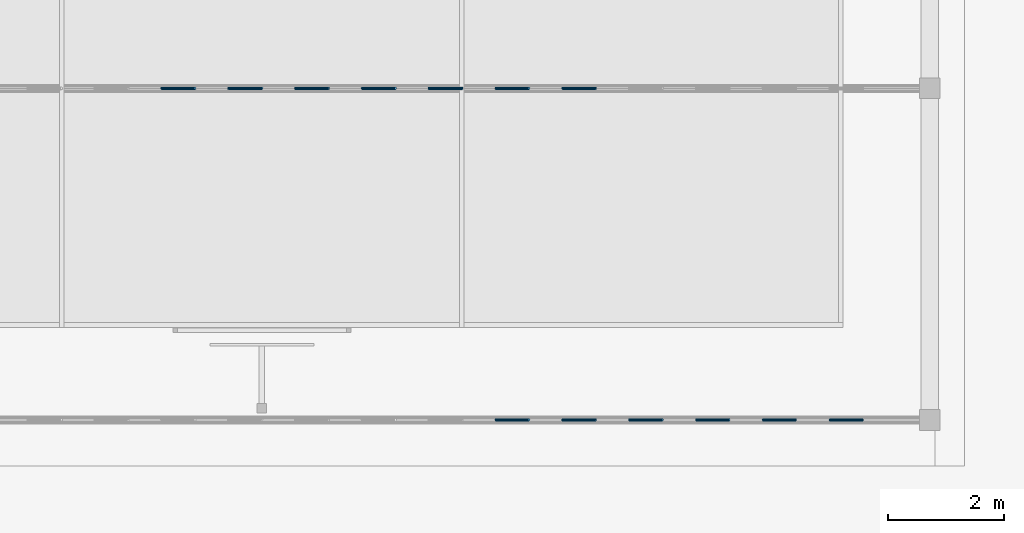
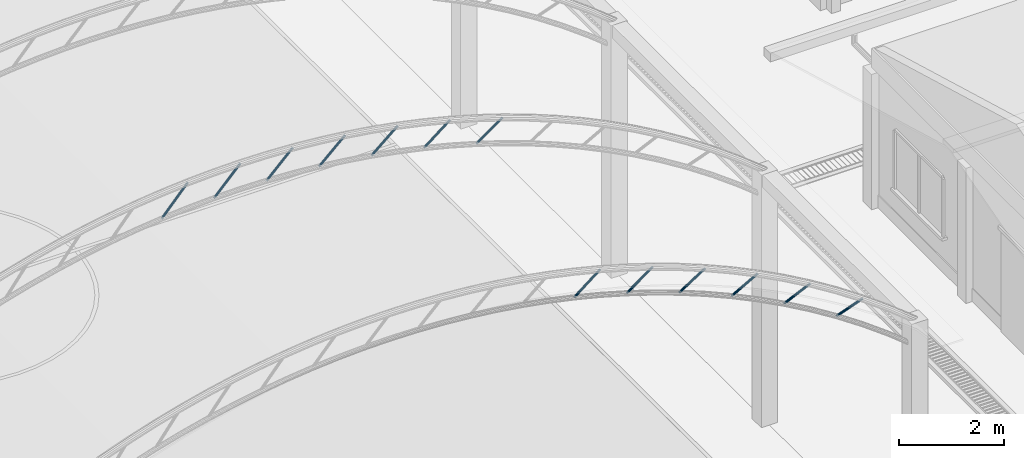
# One storey, part 25 of 151: 13 beams.
"""IFC2X3 building model written with IfcOpenShell, lengths in metres."""

from ifc_helpers import new_model, si_unit, origin, origin_with_axes, place, context, subcontext, project, spatial, faceted_brep, element, save


model = new_model("IFC2X3")

# Units and contexts
model_context = context("Model", 3, precision=1e-05, world=origin_with_axes())
body_context = subcontext(model_context, "Body", "Model", "MODEL_VIEW")
ifc_project = project(units=[si_unit("LENGTHUNIT", "METRE"), si_unit("AREAUNIT", "SQUARE_METRE"), si_unit("VOLUMEUNIT", "CUBIC_METRE"), si_unit("PLANEANGLEUNIT", "RADIAN")], contexts=[model_context])

# Site, building, storey
site_placement = place(None, origin_with_axes())
site = spatial("IfcSite", under=ifc_project, at=site_placement, Name="Predio Los Mangos - Morales, San Martín", CompositionType="ELEMENT")
building_placement = place(site_placement, origin())
building = spatial("IfcBuilding", under=site, at=building_placement, Name="Hogar de Refugio Temporal", CompositionType="ELEMENT")
storey_placement = place(building_placement, origin())
storey = spatial("IfcBuildingStorey", under=building, at=storey_placement, Name="NIVEL 1 (NPT +0.00)", CompositionType="ELEMENT", Elevation=0.0)

# Beams
beam_1_placement = place(storey_placement, origin())
element("IfcBeam", 1, at=beam_1_placement, inside=storey, Name="diag", ObjectType="Viga", context=body_context, shape_type="Brep", body=[
    faceted_brep([(19.0847, 92.6217, 9.0995), (19.6622, 92.6217, 9.5562), (19.67, 92.625, 9.5463), (19.0925, 92.625, 9.0897), (19.0791, 92.6125, 9.1067), (19.6566, 92.6125, 9.5633), (19.077, 92.6, 9.1093), (19.6545, 92.6, 9.566), (19.0791, 92.5875, 9.1067), (19.6566, 92.5875, 9.5633), (19.0847, 92.5783, 9.0995), (19.6622, 92.5783, 9.5562), (19.0925, 92.575, 9.0897), (19.67, 92.575, 9.5463), (19.1003, 92.5783, 9.0799), (19.6778, 92.5783, 9.5365), (19.1059, 92.5875, 9.0727), (19.6834, 92.5875, 9.5294), (19.108, 92.6, 9.0701), (19.6855, 92.6, 9.5267), (19.1059, 92.6125, 9.0727), (19.6834, 92.6125, 9.5294), (19.1003, 92.6217, 9.0799), (19.6778, 92.6217, 9.5365), (19.0912, 92.6037, 9.0914), (19.0925, 92.6043, 9.0897), (19.67, 92.6043, 9.5463), (19.6687, 92.6037, 9.548), (19.0902, 92.6021, 9.0926), (19.6677, 92.6021, 9.5493), (19.0898, 92.6, 9.0931), (19.6673, 92.6, 9.5497), (19.0902, 92.5979, 9.0926), (19.6677, 92.5979, 9.5493), (19.0912, 92.5963, 9.0914), (19.6687, 92.5963, 9.548), (19.0925, 92.5957, 9.0897), (19.67, 92.5957, 9.5463), (19.0938, 92.5963, 9.088), (19.6713, 92.5963, 9.5447), (19.0948, 92.5979, 9.0868), (19.6723, 92.5979, 9.5434), (19.0952, 92.6, 9.0863), (19.6727, 92.6, 9.543), (19.0948, 92.6021, 9.0868), (19.6723, 92.6021, 9.5434), (19.0938, 92.6037, 9.088), (19.6713, 92.6037, 9.5447)], [[[0, 1, 2, 3]], [[4, 5, 1, 0]], [[6, 7, 5, 4]], [[8, 9, 7, 6]], [[10, 11, 9, 8]], [[12, 13, 11, 10]], [[14, 15, 13, 12]], [[16, 17, 15, 14]], [[18, 19, 17, 16]], [[20, 21, 19, 18]], [[22, 23, 21, 20]], [[3, 2, 23, 22]], [[24, 25, 26, 27]], [[28, 24, 27, 29]], [[30, 28, 29, 31]], [[32, 30, 31, 33]], [[34, 32, 33, 35]], [[36, 34, 35, 37]], [[38, 36, 37, 39]], [[40, 38, 39, 41]], [[42, 40, 41, 43]], [[44, 42, 43, 45]], [[46, 44, 45, 47]], [[25, 46, 47, 26]], [[11, 13, 37, 35]], [[21, 23, 47, 45]], [[4, 0, 24, 28]], [[14, 12, 36, 38]], [[3, 22, 46, 25]], [[7, 9, 33, 31]], [[17, 19, 43, 41]], [[23, 2, 26, 47]], [[10, 8, 32, 34]], [[20, 18, 42, 44]], [[1, 5, 29, 27]], [[13, 15, 39, 37]], [[6, 4, 28, 30]], [[16, 14, 38, 40]], [[0, 3, 25, 24]], [[9, 11, 35, 33]], [[19, 21, 45, 43]], [[12, 10, 34, 36]], [[22, 20, 44, 46]], [[5, 7, 31, 29]], [[15, 17, 41, 39]], [[2, 1, 27, 26]], [[8, 6, 30, 32]], [[18, 16, 40, 42]]]),
])
beam_2_placement = place(storey_placement, origin())
element("IfcBeam", 2, at=beam_2_placement, inside=storey, Name="diag", ObjectType="Viga", context=body_context, shape_type="Brep", body=[
    faceted_brep([(20.2402, 92.6217, 8.7926), (20.8177, 92.6217, 9.2075), (20.825, 92.625, 9.1974), (20.2475, 92.625, 8.7824), (20.2349, 92.6125, 8.8), (20.8124, 92.6125, 9.215), (20.2329, 92.6, 8.8027), (20.8104, 92.6, 9.2177), (20.2349, 92.5875, 8.8), (20.8124, 92.5875, 9.215), (20.2402, 92.5783, 8.7926), (20.8177, 92.5783, 9.2075), (20.2475, 92.575, 8.7824), (20.825, 92.575, 9.1974), (20.2548, 92.5783, 8.7723), (20.8323, 92.5783, 9.1872), (20.2601, 92.5875, 8.7649), (20.8376, 92.5875, 9.1798), (20.2621, 92.6, 8.7621), (20.8396, 92.6, 9.1771), (20.2601, 92.6125, 8.7649), (20.8376, 92.6125, 9.1798), (20.2548, 92.6217, 8.7723), (20.8323, 92.6217, 9.1872), (20.2462, 92.6037, 8.7842), (20.2475, 92.6043, 8.7824), (20.825, 92.6043, 9.1974), (20.8237, 92.6037, 9.1991), (20.2453, 92.6021, 8.7855), (20.8228, 92.6021, 9.2004), (20.245, 92.6, 8.7859), (20.8225, 92.6, 9.2009), (20.2453, 92.5979, 8.7855), (20.8228, 92.5979, 9.2004), (20.2462, 92.5963, 8.7842), (20.8237, 92.5963, 9.1991), (20.2475, 92.5957, 8.7824), (20.825, 92.5957, 9.1974), (20.2488, 92.5963, 8.7807), (20.8263, 92.5963, 9.1957), (20.2497, 92.5979, 8.7794), (20.8272, 92.5979, 9.1944), (20.25, 92.6, 8.779), (20.8275, 92.6, 9.1939), (20.2497, 92.6021, 8.7794), (20.8272, 92.6021, 9.1944), (20.2488, 92.6037, 8.7807), (20.8263, 92.6037, 9.1957)], [[[0, 1, 2, 3]], [[4, 5, 1, 0]], [[6, 7, 5, 4]], [[8, 9, 7, 6]], [[10, 11, 9, 8]], [[12, 13, 11, 10]], [[14, 15, 13, 12]], [[16, 17, 15, 14]], [[18, 19, 17, 16]], [[20, 21, 19, 18]], [[22, 23, 21, 20]], [[3, 2, 23, 22]], [[24, 25, 26, 27]], [[28, 24, 27, 29]], [[30, 28, 29, 31]], [[32, 30, 31, 33]], [[34, 32, 33, 35]], [[36, 34, 35, 37]], [[38, 36, 37, 39]], [[40, 38, 39, 41]], [[42, 40, 41, 43]], [[44, 42, 43, 45]], [[46, 44, 45, 47]], [[25, 46, 47, 26]], [[12, 10, 34, 36]], [[22, 20, 44, 46]], [[5, 7, 31, 29]], [[15, 17, 41, 39]], [[2, 1, 27, 26]], [[8, 6, 30, 32]], [[18, 16, 40, 42]], [[11, 13, 37, 35]], [[21, 23, 47, 45]], [[4, 0, 24, 28]], [[14, 12, 36, 38]], [[3, 22, 46, 25]], [[7, 9, 33, 31]], [[17, 19, 43, 41]], [[23, 2, 26, 47]], [[10, 8, 32, 34]], [[20, 18, 42, 44]], [[1, 5, 29, 27]], [[13, 15, 39, 37]], [[6, 4, 28, 30]], [[16, 14, 38, 40]], [[0, 3, 25, 24]], [[9, 11, 35, 33]], [[19, 21, 45, 43]]]),
])
beam_3_placement = place(storey_placement, origin())
element("IfcBeam", 3, at=beam_3_placement, inside=storey, Name="diag", ObjectType="Viga", context=body_context, shape_type="Brep", body=[
    faceted_brep([(21.3958, 92.6217, 8.401), (21.9733, 92.6217, 8.7715), (21.98, 92.625, 8.7609), (21.4025, 92.625, 8.3905), (21.3908, 92.6125, 8.4087), (21.9683, 92.6125, 8.7792), (21.389, 92.6, 8.4115), (21.9665, 92.6, 8.782), (21.3908, 92.5875, 8.4087), (21.9683, 92.5875, 8.7792), (21.3958, 92.5783, 8.401), (21.9733, 92.5783, 8.7715), (21.4025, 92.575, 8.3905), (21.98, 92.575, 8.7609), (21.4092, 92.5783, 8.38), (21.9867, 92.5783, 8.7504), (21.4142, 92.5875, 8.3723), (21.9917, 92.5875, 8.7427), (21.416, 92.6, 8.3695), (21.9935, 92.6, 8.7399), (21.4142, 92.6125, 8.3723), (21.9917, 92.6125, 8.7427), (21.4092, 92.6217, 8.38), (21.9867, 92.6217, 8.7504), (21.4013, 92.6037, 8.3923), (21.4025, 92.6043, 8.3905), (21.98, 92.6043, 8.7609), (21.9788, 92.6037, 8.7627), (21.4005, 92.6021, 8.3936), (21.978, 92.6021, 8.7641), (21.4002, 92.6, 8.3941), (21.9777, 92.6, 8.7645), (21.4005, 92.5979, 8.3936), (21.978, 92.5979, 8.7641), (21.4013, 92.5963, 8.3923), (21.9788, 92.5963, 8.7627), (21.4025, 92.5957, 8.3905), (21.98, 92.5957, 8.7609), (21.4037, 92.5963, 8.3887), (21.9812, 92.5963, 8.7591), (21.4045, 92.5979, 8.3874), (21.982, 92.5979, 8.7578), (21.4048, 92.6, 8.3869), (21.9823, 92.6, 8.7573), (21.4045, 92.6021, 8.3874), (21.982, 92.6021, 8.7578), (21.4037, 92.6037, 8.3887), (21.9812, 92.6037, 8.7591)], [[[0, 1, 2, 3]], [[4, 5, 1, 0]], [[6, 7, 5, 4]], [[8, 9, 7, 6]], [[10, 11, 9, 8]], [[12, 13, 11, 10]], [[14, 15, 13, 12]], [[16, 17, 15, 14]], [[18, 19, 17, 16]], [[20, 21, 19, 18]], [[22, 23, 21, 20]], [[3, 2, 23, 22]], [[24, 25, 26, 27]], [[28, 24, 27, 29]], [[30, 28, 29, 31]], [[32, 30, 31, 33]], [[34, 32, 33, 35]], [[36, 34, 35, 37]], [[38, 36, 37, 39]], [[40, 38, 39, 41]], [[42, 40, 41, 43]], [[44, 42, 43, 45]], [[46, 44, 45, 47]], [[25, 46, 47, 26]], [[6, 4, 28, 30]], [[16, 14, 38, 40]], [[0, 3, 25, 24]], [[9, 11, 35, 33]], [[19, 21, 45, 43]], [[12, 10, 34, 36]], [[22, 20, 44, 46]], [[5, 7, 31, 29]], [[15, 17, 41, 39]], [[2, 1, 27, 26]], [[8, 6, 30, 32]], [[18, 16, 40, 42]], [[11, 13, 37, 35]], [[21, 23, 47, 45]], [[4, 0, 24, 28]], [[14, 12, 36, 38]], [[3, 22, 46, 25]], [[7, 9, 33, 31]], [[17, 19, 43, 41]], [[23, 2, 26, 47]], [[10, 8, 32, 34]], [[20, 18, 42, 44]], [[1, 5, 29, 27]], [[13, 15, 39, 37]]]),
])
beam_4_placement = place(storey_placement, origin())
element("IfcBeam", 4, at=beam_4_placement, inside=storey, Name="diag", ObjectType="Viga", context=body_context, shape_type="Brep", body=[
    faceted_brep([(22.5514, 92.6217, 7.9187), (23.1289, 92.6217, 8.2407), (23.135, 92.625, 8.2298), (22.5575, 92.625, 7.9077), (22.547, 92.6125, 7.9267), (23.1245, 92.6125, 8.2487), (22.5453, 92.6, 7.9296), (23.1228, 92.6, 8.2517), (22.547, 92.5875, 7.9267), (23.1245, 92.5875, 8.2487), (22.5514, 92.5783, 7.9187), (23.1289, 92.5783, 8.2407), (22.5575, 92.575, 7.9077), (23.135, 92.575, 8.2298), (22.5636, 92.5783, 7.8968), (23.1411, 92.5783, 8.2189), (22.568, 92.5875, 7.8888), (23.1455, 92.5875, 8.2109), (22.5697, 92.6, 7.8859), (23.1472, 92.6, 8.208), (22.568, 92.6125, 7.8888), (23.1455, 92.6125, 8.2109), (22.5636, 92.6217, 7.8968), (23.1411, 92.6217, 8.2189), (22.5565, 92.6037, 7.9096), (22.5575, 92.6043, 7.9077), (23.135, 92.6043, 8.2298), (23.134, 92.6037, 8.2317), (22.5557, 92.6021, 7.911), (23.1332, 92.6021, 8.2331), (22.5554, 92.6, 7.9115), (23.1329, 92.6, 8.2336), (22.5557, 92.5979, 7.911), (23.1332, 92.5979, 8.2331), (22.5565, 92.5963, 7.9096), (23.134, 92.5963, 8.2317), (22.5575, 92.5957, 7.9077), (23.135, 92.5957, 8.2298), (22.5585, 92.5963, 7.9059), (23.136, 92.5963, 8.228), (22.5593, 92.5979, 7.9045), (23.1368, 92.5979, 8.2266), (22.5596, 92.6, 7.904), (23.1371, 92.6, 8.2261), (22.5593, 92.6021, 7.9045), (23.1368, 92.6021, 8.2266), (22.5585, 92.6037, 7.9059), (23.136, 92.6037, 8.228)], [[[0, 1, 2, 3]], [[4, 5, 1, 0]], [[6, 7, 5, 4]], [[8, 9, 7, 6]], [[10, 11, 9, 8]], [[12, 13, 11, 10]], [[14, 15, 13, 12]], [[16, 17, 15, 14]], [[18, 19, 17, 16]], [[20, 21, 19, 18]], [[22, 23, 21, 20]], [[3, 2, 23, 22]], [[24, 25, 26, 27]], [[28, 24, 27, 29]], [[30, 28, 29, 31]], [[32, 30, 31, 33]], [[34, 32, 33, 35]], [[36, 34, 35, 37]], [[38, 36, 37, 39]], [[40, 38, 39, 41]], [[42, 40, 41, 43]], [[44, 42, 43, 45]], [[46, 44, 45, 47]], [[25, 46, 47, 26]], [[18, 16, 40, 42]], [[11, 13, 37, 35]], [[21, 23, 47, 45]], [[4, 0, 24, 28]], [[14, 12, 36, 38]], [[3, 22, 46, 25]], [[7, 9, 33, 31]], [[17, 19, 43, 41]], [[23, 2, 26, 47]], [[10, 8, 32, 34]], [[20, 18, 42, 44]], [[1, 5, 29, 27]], [[13, 15, 39, 37]], [[6, 4, 28, 30]], [[16, 14, 38, 40]], [[0, 3, 25, 24]], [[9, 11, 35, 33]], [[19, 21, 45, 43]], [[12, 10, 34, 36]], [[22, 20, 44, 46]], [[5, 7, 31, 29]], [[15, 17, 41, 39]], [[2, 1, 27, 26]], [[8, 6, 30, 32]]]),
])
beam_5_placement = place(storey_placement, origin())
element("IfcBeam", 5, at=beam_5_placement, inside=storey, Name="diag", ObjectType="Viga", context=body_context, shape_type="Brep", body=[
    faceted_brep([(23.7072, 92.6217, 7.3372), (24.2847, 92.6217, 7.6056), (24.29, 92.625, 7.5943), (23.7125, 92.625, 7.3259), (23.7034, 92.6125, 7.3455), (24.2809, 92.6125, 7.6139), (23.702, 92.6, 7.3485), (24.2795, 92.6, 7.617), (23.7034, 92.5875, 7.3455), (24.2809, 92.5875, 7.6139), (23.7072, 92.5783, 7.3372), (24.2847, 92.5783, 7.6056), (23.7125, 92.575, 7.3259), (24.29, 92.575, 7.5943), (23.7178, 92.5783, 7.3145), (24.2953, 92.5783, 7.583), (23.7216, 92.5875, 7.3062), (24.2991, 92.5875, 7.5747), (23.723, 92.6, 7.3032), (24.3005, 92.6, 7.5716), (23.7216, 92.6125, 7.3062), (24.2991, 92.6125, 7.5747), (23.7178, 92.6217, 7.3145), (24.2953, 92.6217, 7.583), (23.7116, 92.6037, 7.3278), (23.7125, 92.6043, 7.3259), (24.29, 92.6043, 7.5943), (24.2891, 92.6037, 7.5963), (23.7109, 92.6021, 7.3292), (24.2884, 92.6021, 7.5977), (23.7107, 92.6, 7.3298), (24.2882, 92.6, 7.5982), (23.7109, 92.5979, 7.3292), (24.2884, 92.5979, 7.5977), (23.7116, 92.5963, 7.3278), (24.2891, 92.5963, 7.5963), (23.7125, 92.5957, 7.3259), (24.29, 92.5957, 7.5943), (23.7134, 92.5963, 7.3239), (24.2909, 92.5963, 7.5924), (23.7141, 92.5979, 7.3225), (24.2916, 92.5979, 7.5909), (23.7143, 92.6, 7.322), (24.2918, 92.6, 7.5904), (23.7141, 92.6021, 7.3225), (24.2916, 92.6021, 7.5909), (23.7134, 92.6037, 7.3239), (24.2909, 92.6037, 7.5924)], [[[0, 1, 2, 3]], [[4, 5, 1, 0]], [[6, 7, 5, 4]], [[8, 9, 7, 6]], [[10, 11, 9, 8]], [[12, 13, 11, 10]], [[14, 15, 13, 12]], [[16, 17, 15, 14]], [[18, 19, 17, 16]], [[20, 21, 19, 18]], [[22, 23, 21, 20]], [[3, 2, 23, 22]], [[24, 25, 26, 27]], [[28, 24, 27, 29]], [[30, 28, 29, 31]], [[32, 30, 31, 33]], [[34, 32, 33, 35]], [[36, 34, 35, 37]], [[38, 36, 37, 39]], [[40, 38, 39, 41]], [[42, 40, 41, 43]], [[44, 42, 43, 45]], [[46, 44, 45, 47]], [[25, 46, 47, 26]], [[18, 16, 40, 42]], [[11, 13, 37, 35]], [[21, 23, 47, 45]], [[4, 0, 24, 28]], [[14, 12, 36, 38]], [[3, 22, 46, 25]], [[7, 9, 33, 31]], [[17, 19, 43, 41]], [[23, 2, 26, 47]], [[10, 8, 32, 34]], [[20, 18, 42, 44]], [[1, 5, 29, 27]], [[13, 15, 39, 37]], [[6, 4, 28, 30]], [[16, 14, 38, 40]], [[0, 3, 25, 24]], [[9, 11, 35, 33]], [[19, 21, 45, 43]], [[12, 10, 34, 36]], [[22, 20, 44, 46]], [[5, 7, 31, 29]], [[15, 17, 41, 39]], [[2, 1, 27, 26]], [[8, 6, 30, 32]]]),
])
beam_6_placement = place(storey_placement, origin())
element("IfcBeam", 6, at=beam_6_placement, inside=storey, Name="diag", ObjectType="Viga", context=body_context, shape_type="Brep", body=[
    faceted_brep([(24.8633, 92.6217, 6.6451), (25.4408, 92.6217, 6.8526), (25.445, 92.625, 6.8408), (24.8675, 92.625, 6.6333), (24.8602, 92.6125, 6.6537), (25.4377, 92.6125, 6.8612), (24.859, 92.6, 6.6569), (25.4365, 92.6, 6.8643), (24.8602, 92.5875, 6.6537), (25.4377, 92.5875, 6.8612), (24.8633, 92.5783, 6.6451), (25.4408, 92.5783, 6.8526), (24.8675, 92.575, 6.6333), (25.445, 92.575, 6.8408), (24.8717, 92.5783, 6.6216), (25.4492, 92.5783, 6.829), (24.8748, 92.5875, 6.613), (25.4523, 92.5875, 6.8204), (24.876, 92.6, 6.6098), (25.4535, 92.6, 6.8173), (24.8748, 92.6125, 6.613), (25.4523, 92.6125, 6.8204), (24.8717, 92.6217, 6.6216), (25.4492, 92.6217, 6.829), (24.8668, 92.6037, 6.6354), (24.8675, 92.6043, 6.6333), (25.445, 92.6043, 6.8408), (25.4443, 92.6037, 6.8428), (24.8662, 92.6021, 6.6368), (25.4437, 92.6021, 6.8443), (24.866, 92.6, 6.6374), (25.4435, 92.6, 6.8449), (24.8662, 92.5979, 6.6368), (25.4437, 92.5979, 6.8443), (24.8668, 92.5963, 6.6354), (25.4443, 92.5963, 6.8428), (24.8675, 92.5957, 6.6333), (25.445, 92.5957, 6.8408), (24.8682, 92.5963, 6.6313), (25.4457, 92.5963, 6.8388), (24.8688, 92.5979, 6.6298), (25.4463, 92.5979, 6.8373), (24.869, 92.6, 6.6293), (25.4465, 92.6, 6.8368), (24.8688, 92.6021, 6.6298), (25.4463, 92.6021, 6.8373), (24.8682, 92.6037, 6.6313), (25.4457, 92.6037, 6.8388)], [[[0, 1, 2, 3]], [[4, 5, 1, 0]], [[6, 7, 5, 4]], [[8, 9, 7, 6]], [[10, 11, 9, 8]], [[12, 13, 11, 10]], [[14, 15, 13, 12]], [[16, 17, 15, 14]], [[18, 19, 17, 16]], [[20, 21, 19, 18]], [[22, 23, 21, 20]], [[3, 2, 23, 22]], [[24, 25, 26, 27]], [[28, 24, 27, 29]], [[30, 28, 29, 31]], [[32, 30, 31, 33]], [[34, 32, 33, 35]], [[36, 34, 35, 37]], [[38, 36, 37, 39]], [[40, 38, 39, 41]], [[42, 40, 41, 43]], [[44, 42, 43, 45]], [[46, 44, 45, 47]], [[25, 46, 47, 26]], [[18, 16, 40, 42]], [[11, 13, 37, 35]], [[21, 23, 47, 45]], [[4, 0, 24, 28]], [[14, 12, 36, 38]], [[3, 22, 46, 25]], [[7, 9, 33, 31]], [[17, 19, 43, 41]], [[23, 2, 26, 47]], [[10, 8, 32, 34]], [[20, 18, 42, 44]], [[1, 5, 29, 27]], [[13, 15, 39, 37]], [[6, 4, 28, 30]], [[16, 14, 38, 40]], [[0, 3, 25, 24]], [[9, 11, 35, 33]], [[19, 21, 45, 43]], [[12, 10, 34, 36]], [[22, 20, 44, 46]], [[5, 7, 31, 29]], [[15, 17, 41, 39]], [[2, 1, 27, 26]], [[8, 6, 30, 32]]]),
])
beam_7_placement = place(storey_placement, origin())
element("IfcBeam", 7, at=beam_7_placement, inside=storey, Name="diag", ObjectType="Viga", context=body_context, shape_type="Brep", body=[
    faceted_brep([(13.3082, 98.355, 9.4747), (13.8857, 98.355, 10.1212), (13.895, 98.3583, 10.1129), (13.3175, 98.3583, 9.4663), (13.3014, 98.3458, 9.4808), (13.8789, 98.3458, 10.1273), (13.2989, 98.3333, 9.483), (13.8764, 98.3333, 10.1295), (13.3014, 98.3208, 9.4808), (13.8789, 98.3208, 10.1273), (13.3082, 98.3117, 9.4747), (13.8857, 98.3117, 10.1212), (13.3175, 98.3083, 9.4663), (13.895, 98.3083, 10.1129), (13.3268, 98.3117, 9.458), (13.9043, 98.3117, 10.1045), (13.3336, 98.3208, 9.4519), (13.9111, 98.3208, 10.0984), (13.3361, 98.3333, 9.4497), (13.9136, 98.3333, 10.0962), (13.3336, 98.3458, 9.4519), (13.9111, 98.3458, 10.0984), (13.3268, 98.355, 9.458), (13.9043, 98.355, 10.1045), (13.3159, 98.3371, 9.4678), (13.3175, 98.3376, 9.4663), (13.895, 98.3376, 10.1129), (13.8934, 98.3371, 10.1143), (13.3147, 98.3355, 9.4688), (13.8922, 98.3355, 10.1153), (13.3143, 98.3333, 9.4692), (13.8918, 98.3333, 10.1157), (13.3147, 98.3312, 9.4688), (13.8922, 98.3312, 10.1153), (13.3159, 98.3296, 9.4678), (13.8934, 98.3296, 10.1143), (13.3175, 98.329, 9.4663), (13.895, 98.329, 10.1129), (13.3191, 98.3296, 9.4649), (13.8966, 98.3296, 10.1114), (13.3203, 98.3312, 9.4639), (13.8978, 98.3312, 10.1104), (13.3207, 98.3333, 9.4635), (13.8982, 98.3333, 10.11), (13.3203, 98.3355, 9.4639), (13.8978, 98.3355, 10.1104), (13.3191, 98.3371, 9.4649), (13.8966, 98.3371, 10.1114)], [[[0, 1, 2, 3]], [[4, 5, 1, 0]], [[6, 7, 5, 4]], [[8, 9, 7, 6]], [[10, 11, 9, 8]], [[12, 13, 11, 10]], [[14, 15, 13, 12]], [[16, 17, 15, 14]], [[18, 19, 17, 16]], [[20, 21, 19, 18]], [[22, 23, 21, 20]], [[3, 2, 23, 22]], [[24, 25, 26, 27]], [[28, 24, 27, 29]], [[30, 28, 29, 31]], [[32, 30, 31, 33]], [[34, 32, 33, 35]], [[36, 34, 35, 37]], [[38, 36, 37, 39]], [[40, 38, 39, 41]], [[42, 40, 41, 43]], [[44, 42, 43, 45]], [[46, 44, 45, 47]], [[25, 46, 47, 26]], [[13, 15, 39, 37]], [[6, 4, 28, 30]], [[16, 14, 38, 40]], [[0, 3, 25, 24]], [[9, 11, 35, 33]], [[19, 21, 45, 43]], [[12, 10, 34, 36]], [[22, 20, 44, 46]], [[5, 7, 31, 29]], [[15, 17, 41, 39]], [[2, 1, 27, 26]], [[8, 6, 30, 32]], [[18, 16, 40, 42]], [[11, 13, 37, 35]], [[21, 23, 47, 45]], [[4, 0, 24, 28]], [[14, 12, 36, 38]], [[3, 22, 46, 25]], [[7, 9, 33, 31]], [[17, 19, 43, 41]], [[23, 2, 26, 47]], [[10, 8, 32, 34]], [[20, 18, 42, 44]], [[1, 5, 29, 27]]]),
])
beam_8_placement = place(storey_placement, origin())
element("IfcBeam", 8, at=beam_8_placement, inside=storey, Name="diag", ObjectType="Viga", context=body_context, shape_type="Brep", body=[
    faceted_brep([(14.4634, 98.355, 9.5493), (15.0409, 98.355, 10.1586), (15.05, 98.3583, 10.15), (14.4725, 98.3583, 9.5407), (14.4568, 98.3458, 9.5556), (15.0343, 98.3458, 10.1649), (14.4544, 98.3333, 9.5579), (15.0319, 98.3333, 10.1672), (14.4568, 98.3208, 9.5556), (15.0343, 98.3208, 10.1649), (14.4634, 98.3117, 9.5493), (15.0409, 98.3117, 10.1586), (14.4725, 98.3083, 9.5407), (15.05, 98.3083, 10.15), (14.4816, 98.3117, 9.5321), (15.0591, 98.3117, 10.1414), (14.4882, 98.3208, 9.5258), (15.0657, 98.3208, 10.1351), (14.4906, 98.3333, 9.5235), (15.0681, 98.3333, 10.1328), (14.4882, 98.3458, 9.5258), (15.0657, 98.3458, 10.1351), (14.4816, 98.355, 9.5321), (15.0591, 98.355, 10.1414), (14.4709, 98.3371, 9.5422), (14.4725, 98.3376, 9.5407), (15.05, 98.3376, 10.15), (15.0484, 98.3371, 10.1515), (14.4698, 98.3355, 9.5433), (15.0473, 98.3355, 10.1526), (14.4694, 98.3333, 9.5437), (15.0469, 98.3333, 10.153), (14.4698, 98.3312, 9.5433), (15.0473, 98.3312, 10.1526), (14.4709, 98.3296, 9.5422), (15.0484, 98.3296, 10.1515), (14.4725, 98.329, 9.5407), (15.05, 98.329, 10.15), (14.4741, 98.3296, 9.5392), (15.0516, 98.3296, 10.1485), (14.4752, 98.3312, 9.5382), (15.0527, 98.3312, 10.1474), (14.4756, 98.3333, 9.5378), (15.0531, 98.3333, 10.147), (14.4752, 98.3355, 9.5382), (15.0527, 98.3355, 10.1474), (14.4741, 98.3371, 9.5392), (15.0516, 98.3371, 10.1485)], [[[0, 1, 2, 3]], [[4, 5, 1, 0]], [[6, 7, 5, 4]], [[8, 9, 7, 6]], [[10, 11, 9, 8]], [[12, 13, 11, 10]], [[14, 15, 13, 12]], [[16, 17, 15, 14]], [[18, 19, 17, 16]], [[20, 21, 19, 18]], [[22, 23, 21, 20]], [[3, 2, 23, 22]], [[24, 25, 26, 27]], [[28, 24, 27, 29]], [[30, 28, 29, 31]], [[32, 30, 31, 33]], [[34, 32, 33, 35]], [[36, 34, 35, 37]], [[38, 36, 37, 39]], [[40, 38, 39, 41]], [[42, 40, 41, 43]], [[44, 42, 43, 45]], [[46, 44, 45, 47]], [[25, 46, 47, 26]], [[9, 11, 35, 33]], [[19, 21, 45, 43]], [[12, 10, 34, 36]], [[22, 20, 44, 46]], [[5, 7, 31, 29]], [[15, 17, 41, 39]], [[2, 1, 27, 26]], [[8, 6, 30, 32]], [[18, 16, 40, 42]], [[11, 13, 37, 35]], [[21, 23, 47, 45]], [[4, 0, 24, 28]], [[14, 12, 36, 38]], [[3, 22, 46, 25]], [[7, 9, 33, 31]], [[17, 19, 43, 41]], [[23, 2, 26, 47]], [[10, 8, 32, 34]], [[20, 18, 42, 44]], [[1, 5, 29, 27]], [[13, 15, 39, 37]], [[6, 4, 28, 30]], [[16, 14, 38, 40]], [[0, 3, 25, 24]]]),
])
beam_9_placement = place(storey_placement, origin())
element("IfcBeam", 9, at=beam_9_placement, inside=storey, Name="diag", ObjectType="Viga", context=body_context, shape_type="Brep", body=[
    faceted_brep([(15.6187, 98.355, 9.5496), (16.1962, 98.355, 10.1217), (16.205, 98.3583, 10.1129), (15.6275, 98.3583, 9.5407), (15.6123, 98.3458, 9.5561), (16.1898, 98.3458, 10.1282), (15.6099, 98.3333, 9.5585), (16.1874, 98.3333, 10.1306), (15.6123, 98.3208, 9.5561), (16.1898, 98.3208, 10.1282), (15.6187, 98.3117, 9.5496), (16.1962, 98.3117, 10.1217), (15.6275, 98.3083, 9.5407), (16.205, 98.3083, 10.1129), (15.6363, 98.3117, 9.5318), (16.2138, 98.3117, 10.104), (15.6427, 98.3208, 9.5253), (16.2202, 98.3208, 10.0975), (15.6451, 98.3333, 9.523), (16.2226, 98.3333, 10.0951), (15.6427, 98.3458, 9.5253), (16.2202, 98.3458, 10.0975), (15.6363, 98.355, 9.5318), (16.2138, 98.355, 10.104), (15.626, 98.3371, 9.5422), (15.6275, 98.3376, 9.5407), (16.205, 98.3376, 10.1129), (16.2035, 98.3371, 10.1144), (15.6249, 98.3355, 9.5434), (16.2024, 98.3355, 10.1155), (15.6245, 98.3333, 9.5438), (16.202, 98.3333, 10.1159), (15.6249, 98.3312, 9.5434), (16.2024, 98.3312, 10.1155), (15.626, 98.3296, 9.5422), (16.2035, 98.3296, 10.1144), (15.6275, 98.329, 9.5407), (16.205, 98.329, 10.1129), (15.629, 98.3296, 9.5392), (16.2065, 98.3296, 10.1113), (15.6301, 98.3312, 9.5381), (16.2076, 98.3312, 10.1102), (15.6305, 98.3333, 9.5377), (16.208, 98.3333, 10.1098), (15.6301, 98.3355, 9.5381), (16.2076, 98.3355, 10.1102), (15.629, 98.3371, 9.5392), (16.2065, 98.3371, 10.1113)], [[[0, 1, 2, 3]], [[4, 5, 1, 0]], [[6, 7, 5, 4]], [[8, 9, 7, 6]], [[10, 11, 9, 8]], [[12, 13, 11, 10]], [[14, 15, 13, 12]], [[16, 17, 15, 14]], [[18, 19, 17, 16]], [[20, 21, 19, 18]], [[22, 23, 21, 20]], [[3, 2, 23, 22]], [[24, 25, 26, 27]], [[28, 24, 27, 29]], [[30, 28, 29, 31]], [[32, 30, 31, 33]], [[34, 32, 33, 35]], [[36, 34, 35, 37]], [[38, 36, 37, 39]], [[40, 38, 39, 41]], [[42, 40, 41, 43]], [[44, 42, 43, 45]], [[46, 44, 45, 47]], [[25, 46, 47, 26]], [[1, 5, 29, 27]], [[13, 15, 39, 37]], [[6, 4, 28, 30]], [[16, 14, 38, 40]], [[0, 3, 25, 24]], [[9, 11, 35, 33]], [[19, 21, 45, 43]], [[12, 10, 34, 36]], [[22, 20, 44, 46]], [[5, 7, 31, 29]], [[15, 17, 41, 39]], [[2, 1, 27, 26]], [[8, 6, 30, 32]], [[18, 16, 40, 42]], [[11, 13, 37, 35]], [[21, 23, 47, 45]], [[4, 0, 24, 28]], [[14, 12, 36, 38]], [[3, 22, 46, 25]], [[7, 9, 33, 31]], [[17, 19, 43, 41]], [[23, 2, 26, 47]], [[10, 8, 32, 34]], [[20, 18, 42, 44]]]),
])
beam_10_placement = place(storey_placement, origin())
element("IfcBeam", 10, at=beam_10_placement, inside=storey, Name="diag", ObjectType="Viga", context=body_context, shape_type="Brep", body=[
    faceted_brep([(16.774, 98.355, 9.4755), (17.3515, 98.355, 10.0102), (17.36, 98.3583, 10.001), (16.7825, 98.3583, 9.4663), (16.7678, 98.3458, 9.4822), (17.3453, 98.3458, 10.0169), (16.7655, 98.3333, 9.4847), (17.343, 98.3333, 10.0193), (16.7678, 98.3208, 9.4822), (17.3453, 98.3208, 10.0169), (16.774, 98.3117, 9.4755), (17.3515, 98.3117, 10.0102), (16.7825, 98.3083, 9.4663), (17.36, 98.3083, 10.001), (16.791, 98.3117, 9.4572), (17.3685, 98.3117, 9.9918), (16.7972, 98.3208, 9.4505), (17.3747, 98.3208, 9.9851), (16.7995, 98.3333, 9.448), (17.377, 98.3333, 9.9827), (16.7972, 98.3458, 9.4505), (17.3747, 98.3458, 9.9851), (16.791, 98.355, 9.4572), (17.3685, 98.355, 9.9918), (16.781, 98.3371, 9.4679), (16.7825, 98.3376, 9.4663), (17.36, 98.3376, 10.001), (17.3585, 98.3371, 10.0026), (16.78, 98.3355, 9.4691), (17.3575, 98.3355, 10.0037), (16.7796, 98.3333, 9.4695), (17.3571, 98.3333, 10.0042), (16.78, 98.3312, 9.4691), (17.3575, 98.3312, 10.0037), (16.781, 98.3296, 9.4679), (17.3585, 98.3296, 10.0026), (16.7825, 98.329, 9.4663), (17.36, 98.329, 10.001), (16.784, 98.3296, 9.4648), (17.3615, 98.3296, 9.9994), (16.785, 98.3312, 9.4636), (17.3625, 98.3312, 9.9983), (16.7854, 98.3333, 9.4632), (17.3629, 98.3333, 9.9979), (16.785, 98.3355, 9.4636), (17.3625, 98.3355, 9.9983), (16.784, 98.3371, 9.4648), (17.3615, 98.3371, 9.9994)], [[[0, 1, 2, 3]], [[4, 5, 1, 0]], [[6, 7, 5, 4]], [[8, 9, 7, 6]], [[10, 11, 9, 8]], [[12, 13, 11, 10]], [[14, 15, 13, 12]], [[16, 17, 15, 14]], [[18, 19, 17, 16]], [[20, 21, 19, 18]], [[22, 23, 21, 20]], [[3, 2, 23, 22]], [[24, 25, 26, 27]], [[28, 24, 27, 29]], [[30, 28, 29, 31]], [[32, 30, 31, 33]], [[34, 32, 33, 35]], [[36, 34, 35, 37]], [[38, 36, 37, 39]], [[40, 38, 39, 41]], [[42, 40, 41, 43]], [[44, 42, 43, 45]], [[46, 44, 45, 47]], [[25, 46, 47, 26]], [[12, 10, 34, 36]], [[22, 20, 44, 46]], [[5, 7, 31, 29]], [[15, 17, 41, 39]], [[2, 1, 27, 26]], [[8, 6, 30, 32]], [[18, 16, 40, 42]], [[11, 13, 37, 35]], [[21, 23, 47, 45]], [[4, 0, 24, 28]], [[14, 12, 36, 38]], [[3, 22, 46, 25]], [[7, 9, 33, 31]], [[17, 19, 43, 41]], [[23, 2, 26, 47]], [[10, 8, 32, 34]], [[20, 18, 42, 44]], [[1, 5, 29, 27]], [[13, 15, 39, 37]], [[6, 4, 28, 30]], [[16, 14, 38, 40]], [[0, 3, 25, 24]], [[9, 11, 35, 33]], [[19, 21, 45, 43]]]),
])
beam_11_placement = place(storey_placement, origin())
element("IfcBeam", 11, at=beam_11_placement, inside=storey, Name="diag", ObjectType="Viga", context=body_context, shape_type="Brep", body=[
    faceted_brep([(17.9294, 98.355, 9.3261), (18.5069, 98.355, 9.8225), (18.515, 98.3583, 9.813), (17.9375, 98.3583, 9.3166), (17.9234, 98.3458, 9.3331), (18.5009, 98.3458, 9.8294), (17.9212, 98.3333, 9.3356), (18.4987, 98.3333, 9.8319), (17.9234, 98.3208, 9.3331), (18.5009, 98.3208, 9.8294), (17.9294, 98.3117, 9.3261), (18.5069, 98.3117, 9.8225), (17.9375, 98.3083, 9.3166), (18.515, 98.3083, 9.813), (17.9456, 98.3117, 9.3072), (18.5231, 98.3117, 9.8035), (17.9516, 98.3208, 9.3002), (18.5291, 98.3208, 9.7966), (17.9538, 98.3333, 9.2977), (18.5313, 98.3333, 9.794), (17.9516, 98.3458, 9.3002), (18.5291, 98.3458, 9.7966), (17.9456, 98.355, 9.3072), (18.5231, 98.355, 9.8035), (17.9361, 98.3371, 9.3183), (17.9375, 98.3376, 9.3166), (18.515, 98.3376, 9.813), (18.5136, 98.3371, 9.8146), (17.9351, 98.3355, 9.3195), (18.5126, 98.3355, 9.8158), (17.9347, 98.3333, 9.3199), (18.5122, 98.3333, 9.8162), (17.9351, 98.3312, 9.3195), (18.5126, 98.3312, 9.8158), (17.9361, 98.3296, 9.3183), (18.5136, 98.3296, 9.8146), (17.9375, 98.329, 9.3166), (18.515, 98.329, 9.813), (17.9389, 98.3296, 9.315), (18.5164, 98.3296, 9.8114), (17.9399, 98.3312, 9.3138), (18.5174, 98.3312, 9.8102), (17.9403, 98.3333, 9.3134), (18.5178, 98.3333, 9.8097), (17.9399, 98.3355, 9.3138), (18.5174, 98.3355, 9.8102), (17.9389, 98.3371, 9.315), (18.5164, 98.3371, 9.8114)], [[[0, 1, 2, 3]], [[4, 5, 1, 0]], [[6, 7, 5, 4]], [[8, 9, 7, 6]], [[10, 11, 9, 8]], [[12, 13, 11, 10]], [[14, 15, 13, 12]], [[16, 17, 15, 14]], [[18, 19, 17, 16]], [[20, 21, 19, 18]], [[22, 23, 21, 20]], [[3, 2, 23, 22]], [[24, 25, 26, 27]], [[28, 24, 27, 29]], [[30, 28, 29, 31]], [[32, 30, 31, 33]], [[34, 32, 33, 35]], [[36, 34, 35, 37]], [[38, 36, 37, 39]], [[40, 38, 39, 41]], [[42, 40, 41, 43]], [[44, 42, 43, 45]], [[46, 44, 45, 47]], [[25, 46, 47, 26]], [[12, 10, 34, 36]], [[22, 20, 44, 46]], [[5, 7, 31, 29]], [[15, 17, 41, 39]], [[2, 1, 27, 26]], [[8, 6, 30, 32]], [[18, 16, 40, 42]], [[11, 13, 37, 35]], [[21, 23, 47, 45]], [[4, 0, 24, 28]], [[14, 12, 36, 38]], [[3, 22, 46, 25]], [[7, 9, 33, 31]], [[17, 19, 43, 41]], [[23, 2, 26, 47]], [[10, 8, 32, 34]], [[20, 18, 42, 44]], [[1, 5, 29, 27]], [[13, 15, 39, 37]], [[6, 4, 28, 30]], [[16, 14, 38, 40]], [[0, 3, 25, 24]], [[9, 11, 35, 33]], [[19, 21, 45, 43]]]),
])
beam_12_placement = place(storey_placement, origin())
element("IfcBeam", 12, at=beam_12_placement, inside=storey, Name="diag", ObjectType="Viga", context=body_context, shape_type="Brep", body=[
    faceted_brep([(19.0847, 98.355, 9.0995), (19.6622, 98.355, 9.5562), (19.67, 98.3583, 9.5463), (19.0925, 98.3583, 9.0897), (19.0791, 98.3458, 9.1067), (19.6566, 98.3458, 9.5633), (19.077, 98.3333, 9.1093), (19.6545, 98.3333, 9.566), (19.0791, 98.3208, 9.1067), (19.6566, 98.3208, 9.5633), (19.0847, 98.3117, 9.0995), (19.6622, 98.3117, 9.5562), (19.0925, 98.3083, 9.0897), (19.67, 98.3083, 9.5463), (19.1003, 98.3117, 9.0799), (19.6778, 98.3117, 9.5365), (19.1059, 98.3208, 9.0727), (19.6834, 98.3208, 9.5294), (19.108, 98.3333, 9.0701), (19.6855, 98.3333, 9.5267), (19.1059, 98.3458, 9.0727), (19.6834, 98.3458, 9.5294), (19.1003, 98.355, 9.0799), (19.6778, 98.355, 9.5365), (19.0912, 98.3371, 9.0914), (19.0925, 98.3376, 9.0897), (19.67, 98.3376, 9.5463), (19.6687, 98.3371, 9.548), (19.0902, 98.3355, 9.0926), (19.6677, 98.3355, 9.5493), (19.0898, 98.3333, 9.0931), (19.6673, 98.3333, 9.5497), (19.0902, 98.3312, 9.0926), (19.6677, 98.3312, 9.5493), (19.0912, 98.3296, 9.0914), (19.6687, 98.3296, 9.548), (19.0925, 98.329, 9.0897), (19.67, 98.329, 9.5463), (19.0938, 98.3296, 9.088), (19.6713, 98.3296, 9.5447), (19.0948, 98.3312, 9.0868), (19.6723, 98.3312, 9.5434), (19.0952, 98.3333, 9.0863), (19.6727, 98.3333, 9.543), (19.0948, 98.3355, 9.0868), (19.6723, 98.3355, 9.5434), (19.0938, 98.3371, 9.088), (19.6713, 98.3371, 9.5447)], [[[0, 1, 2, 3]], [[4, 5, 1, 0]], [[6, 7, 5, 4]], [[8, 9, 7, 6]], [[10, 11, 9, 8]], [[12, 13, 11, 10]], [[14, 15, 13, 12]], [[16, 17, 15, 14]], [[18, 19, 17, 16]], [[20, 21, 19, 18]], [[22, 23, 21, 20]], [[3, 2, 23, 22]], [[24, 25, 26, 27]], [[28, 24, 27, 29]], [[30, 28, 29, 31]], [[32, 30, 31, 33]], [[34, 32, 33, 35]], [[36, 34, 35, 37]], [[38, 36, 37, 39]], [[40, 38, 39, 41]], [[42, 40, 41, 43]], [[44, 42, 43, 45]], [[46, 44, 45, 47]], [[25, 46, 47, 26]], [[12, 10, 34, 36]], [[22, 20, 44, 46]], [[5, 7, 31, 29]], [[15, 17, 41, 39]], [[2, 1, 27, 26]], [[8, 6, 30, 32]], [[18, 16, 40, 42]], [[11, 13, 37, 35]], [[21, 23, 47, 45]], [[4, 0, 24, 28]], [[14, 12, 36, 38]], [[3, 22, 46, 25]], [[7, 9, 33, 31]], [[17, 19, 43, 41]], [[23, 2, 26, 47]], [[10, 8, 32, 34]], [[20, 18, 42, 44]], [[1, 5, 29, 27]], [[13, 15, 39, 37]], [[6, 4, 28, 30]], [[16, 14, 38, 40]], [[0, 3, 25, 24]], [[9, 11, 35, 33]], [[19, 21, 45, 43]]]),
])
beam_13_placement = place(storey_placement, origin())
element("IfcBeam", 13, at=beam_13_placement, inside=storey, Name="diag", ObjectType="Viga", context=body_context, shape_type="Brep", body=[
    faceted_brep([(20.2402, 98.355, 8.7926), (20.8177, 98.355, 9.2075), (20.825, 98.3583, 9.1974), (20.2475, 98.3583, 8.7824), (20.2349, 98.3458, 8.8), (20.8124, 98.3458, 9.215), (20.2329, 98.3333, 8.8027), (20.8104, 98.3333, 9.2177), (20.2349, 98.3208, 8.8), (20.8124, 98.3208, 9.215), (20.2402, 98.3117, 8.7926), (20.8177, 98.3117, 9.2075), (20.2475, 98.3083, 8.7824), (20.825, 98.3083, 9.1974), (20.2548, 98.3117, 8.7723), (20.8323, 98.3117, 9.1872), (20.2601, 98.3208, 8.7649), (20.8376, 98.3208, 9.1798), (20.2621, 98.3333, 8.7621), (20.8396, 98.3333, 9.1771), (20.2601, 98.3458, 8.7649), (20.8376, 98.3458, 9.1798), (20.2548, 98.355, 8.7723), (20.8323, 98.355, 9.1872), (20.2462, 98.3371, 8.7842), (20.2475, 98.3376, 8.7824), (20.825, 98.3376, 9.1974), (20.8237, 98.3371, 9.1991), (20.2453, 98.3355, 8.7855), (20.8228, 98.3355, 9.2004), (20.245, 98.3333, 8.7859), (20.8225, 98.3333, 9.2009), (20.2453, 98.3312, 8.7855), (20.8228, 98.3312, 9.2004), (20.2462, 98.3296, 8.7842), (20.8237, 98.3296, 9.1991), (20.2475, 98.329, 8.7824), (20.825, 98.329, 9.1974), (20.2488, 98.3296, 8.7807), (20.8263, 98.3296, 9.1957), (20.2497, 98.3312, 8.7794), (20.8272, 98.3312, 9.1944), (20.25, 98.3333, 8.779), (20.8275, 98.3333, 9.1939), (20.2497, 98.3355, 8.7794), (20.8272, 98.3355, 9.1944), (20.2488, 98.3371, 8.7807), (20.8263, 98.3371, 9.1957)], [[[0, 1, 2, 3]], [[4, 5, 1, 0]], [[6, 7, 5, 4]], [[8, 9, 7, 6]], [[10, 11, 9, 8]], [[12, 13, 11, 10]], [[14, 15, 13, 12]], [[16, 17, 15, 14]], [[18, 19, 17, 16]], [[20, 21, 19, 18]], [[22, 23, 21, 20]], [[3, 2, 23, 22]], [[24, 25, 26, 27]], [[28, 24, 27, 29]], [[30, 28, 29, 31]], [[32, 30, 31, 33]], [[34, 32, 33, 35]], [[36, 34, 35, 37]], [[38, 36, 37, 39]], [[40, 38, 39, 41]], [[42, 40, 41, 43]], [[44, 42, 43, 45]], [[46, 44, 45, 47]], [[25, 46, 47, 26]], [[12, 10, 34, 36]], [[22, 20, 44, 46]], [[5, 7, 31, 29]], [[15, 17, 41, 39]], [[2, 1, 27, 26]], [[8, 6, 30, 32]], [[18, 16, 40, 42]], [[11, 13, 37, 35]], [[21, 23, 47, 45]], [[4, 0, 24, 28]], [[14, 12, 36, 38]], [[3, 22, 46, 25]], [[7, 9, 33, 31]], [[17, 19, 43, 41]], [[23, 2, 26, 47]], [[10, 8, 32, 34]], [[20, 18, 42, 44]], [[1, 5, 29, 27]], [[13, 15, 39, 37]], [[6, 4, 28, 30]], [[16, 14, 38, 40]], [[0, 3, 25, 24]], [[9, 11, 35, 33]], [[19, 21, 45, 43]]]),
])

save(model, "model.ifc")
